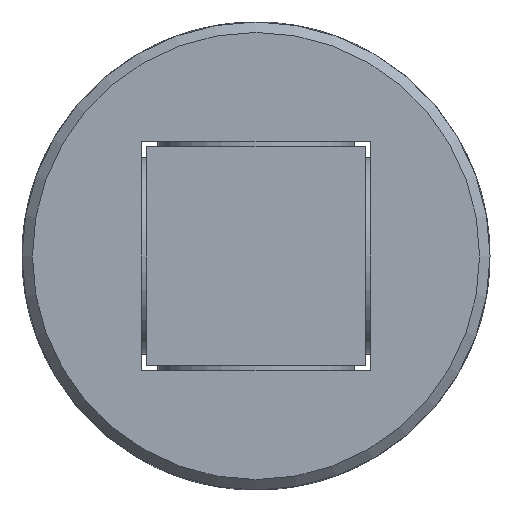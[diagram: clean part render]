
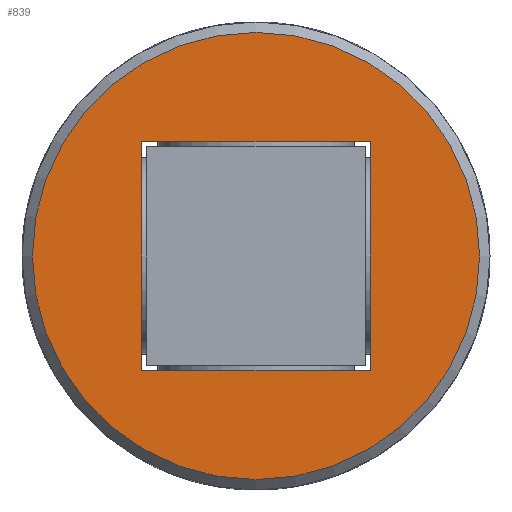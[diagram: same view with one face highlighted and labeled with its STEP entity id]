
A CAD part, front view. The second image highlights one B-rep face of the part: STEP entity #839.
In plain terms, the highlighted planar face has unit normal (0, -1, 0).
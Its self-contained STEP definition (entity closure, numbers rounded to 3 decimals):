
#94=LINE('',#1249,#134);
#98=LINE('',#1274,#138);
#104=LINE('',#1316,#144);
#107=LINE('',#1338,#147);
#134=VECTOR('',#1026,22.);
#138=VECTOR('',#1034,22.);
#144=VECTOR('',#1042,22.);
#147=VECTOR('',#1049,22.);
#174=PLANE('',#913);
#199=FACE_BOUND('',#299,.T.);
#234=FACE_OUTER_BOUND('',#298,.T.);
#298=EDGE_LOOP('',(#679));
#299=EDGE_LOOP('',(#680,#681,#682,#683));
#348=CIRCLE('',#911,21.5);
#386=VERTEX_POINT('',#1246);
#387=VERTEX_POINT('',#1248);
#393=VERTEX_POINT('',#1273);
#402=VERTEX_POINT('',#1314);
#409=VERTEX_POINT('',#1379);
#475=EDGE_CURVE('',#387,#386,#94,.T.);
#482=EDGE_CURVE('',#393,#387,#98,.T.);
#492=EDGE_CURVE('',#386,#402,#104,.T.);
#498=EDGE_CURVE('',#402,#393,#107,.T.);
#509=EDGE_CURVE('',#409,#409,#348,.T.);
#679=ORIENTED_EDGE('',*,*,#509,.F.);
#680=ORIENTED_EDGE('',*,*,#475,.T.);
#681=ORIENTED_EDGE('',*,*,#492,.T.);
#682=ORIENTED_EDGE('',*,*,#498,.T.);
#683=ORIENTED_EDGE('',*,*,#482,.T.);
#839=ADVANCED_FACE('',(#234,#199),#174,.F.);
#911=AXIS2_PLACEMENT_3D('',#1380,#1078,#1079);
#913=AXIS2_PLACEMENT_3D('',#1564,#1086,#1087);
#1026=DIRECTION('',(0.,0.,-1.));
#1034=DIRECTION('',(1.,0.,0.));
#1042=DIRECTION('',(-1.,0.,0.));
#1049=DIRECTION('',(0.,0.,1.));
#1078=DIRECTION('center_axis',(0.,1.,0.));
#1079=DIRECTION('ref_axis',(1.,0.,0.));
#1086=DIRECTION('center_axis',(0.,1.,0.));
#1087=DIRECTION('ref_axis',(0.,0.,1.));
#1246=CARTESIAN_POINT('',(11.,-58.,-11.));
#1248=CARTESIAN_POINT('',(11.,-58.,11.));
#1249=CARTESIAN_POINT('',(11.,-58.,5.5));
#1273=CARTESIAN_POINT('',(-11.,-58.,11.));
#1274=CARTESIAN_POINT('',(-5.5,-58.,11.));
#1314=CARTESIAN_POINT('',(-11.,-58.,-11.));
#1316=CARTESIAN_POINT('',(5.5,-58.,-11.));
#1338=CARTESIAN_POINT('',(-11.,-58.,-5.5));
#1379=CARTESIAN_POINT('',(-21.5,-58.,0.));
#1380=CARTESIAN_POINT('Origin',(0.,-58.,0.));
#1564=CARTESIAN_POINT('Origin',(0.,-58.,0.));
